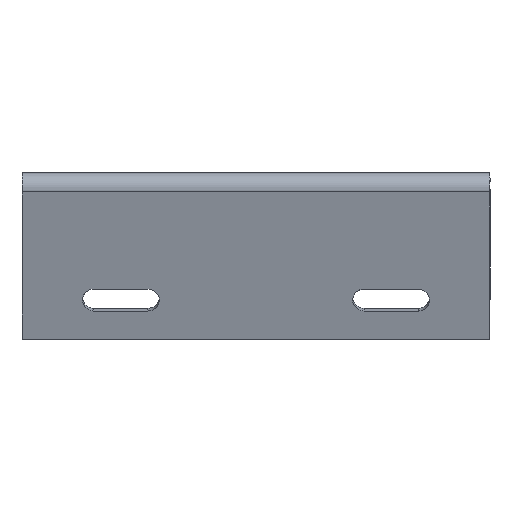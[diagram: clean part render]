
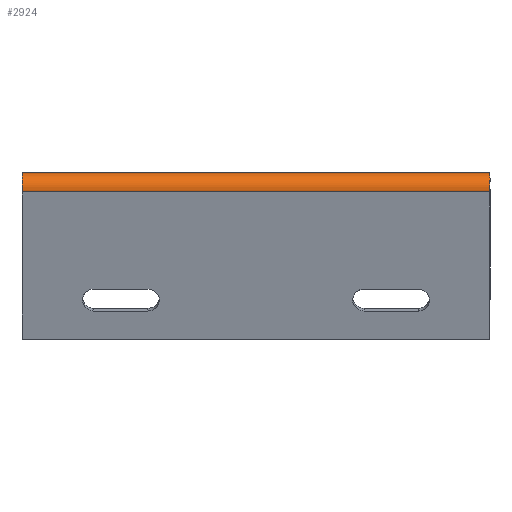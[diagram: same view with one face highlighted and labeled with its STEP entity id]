
A CAD part, left-side view. The second image highlights one B-rep face of the part: STEP entity #2924.
In plain terms, the highlighted cylindrical face has radius 7.163 mm (diameter 14.326 mm), a partial arc.
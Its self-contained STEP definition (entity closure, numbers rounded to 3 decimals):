
#7 = DIRECTION ( 'NONE',  ( -0.966, 0., -0.259 ) ) ;
#178 = CARTESIAN_POINT ( 'NONE',  ( -56.361, -109.982, 1.526 ) ) ;
#427 = CARTESIAN_POINT ( 'NONE',  ( -55.396, 109.982, 2.82 ) ) ;
#463 = CARTESIAN_POINT ( 'NONE',  ( -57.274, -36.661, -4.241 ) ) ;
#873 = EDGE_CURVE ( 'NONE', #5734, #4604, #5027, .T. ) ;
#1203 = CARTESIAN_POINT ( 'NONE',  ( -50.355, 109.982, 4.775 ) ) ;
#1736 = CARTESIAN_POINT ( 'NONE',  ( -57.11, -109.982, 0.057 ) ) ;
#1927 = CARTESIAN_POINT ( 'NONE',  ( -54.534, 109.982, 3.534 ) ) ;
#1978 = CARTESIAN_POINT ( 'NONE',  ( -53.055, 109.982, 4.27 ) ) ;
#2028 = CARTESIAN_POINT ( 'NONE',  ( -57.847, 109.982, -2.104 ) ) ;
#2773 = CARTESIAN_POINT ( 'NONE',  ( -50.355, 109.982, 4.775 ) ) ;
#2915 = B_SPLINE_CURVE_WITH_KNOTS ( 'NONE', 3,
 ( #3734, #463, #6883, #10006 ),
 .UNSPECIFIED., .F., .F.,
 ( 4, 4 ),
 ( 0., 1. ),
 .UNSPECIFIED. ) ;
#2924 = ADVANCED_FACE ( 'NONE', ( #6156 ), #7823, .T. ) ;
#3127 = AXIS2_PLACEMENT_3D ( 'NONE', #7720, #6999, #7 ) ;
#3461 = ORIENTED_EDGE ( 'NONE', *, *, #9538, .F. ) ;
#3497 = CARTESIAN_POINT ( 'NONE',  ( -52.53, 109.982, 4.459 ) ) ;
#3734 = CARTESIAN_POINT ( 'NONE',  ( -57.274, -109.982, -4.241 ) ) ;
#4004 = CARTESIAN_POINT ( 'NONE',  ( -57.274, -109.982, -4.241 ) ) ;
#4070 = CARTESIAN_POINT ( 'NONE',  ( -56.643, -109.982, 1.054 ) ) ;
#4213 = ORIENTED_EDGE ( 'NONE', *, *, #6227, .F. ) ;
#4604 = VERTEX_POINT ( 'NONE', #7995 ) ;
#4743 = CARTESIAN_POINT ( 'NONE',  ( -55.59, -109.982, 2.66 ) ) ;
#4836 = CARTESIAN_POINT ( 'NONE',  ( -51.458, -109.982, 4.711 ) ) ;
#5027 = B_SPLINE_CURVE_WITH_KNOTS ( 'NONE', 3,
 ( #9157, #6747, #5901, #2773 ),
 .UNSPECIFIED., .F., .F.,
 ( 4, 4 ),
 ( 0., 1. ),
 .UNSPECIFIED. ) ;
#5378 = ORIENTED_EDGE ( 'NONE', *, *, #873, .T. ) ;
#5511 = CARTESIAN_POINT ( 'NONE',  ( -57.274, -109.982, -4.241 ) ) ;
#5586 = B_SPLINE_CURVE_WITH_KNOTS ( 'NONE', 3,
 ( #9770, #2028, #8292, #427, #1927, #1978, #3497, #8241, #9876, #1203 ),
 .UNSPECIFIED., .F., .F.,
 ( 4, 2, 2, 2, 4 ),
 ( 0., 0.5, 0.75, 0.875, 1. ),
 .UNSPECIFIED. ) ;
#5607 = CARTESIAN_POINT ( 'NONE',  ( -56.771, -109.982, 0.808 ) ) ;
#5734 = VERTEX_POINT ( 'NONE', #8951 ) ;
#5901 = CARTESIAN_POINT ( 'NONE',  ( -50.355, 36.661, 4.775 ) ) ;
#6156 = FACE_OUTER_BOUND ( 'NONE', #9768, .T. ) ;
#6227 = EDGE_CURVE ( 'NONE', #7140, #10100, #2915, .T. ) ;
#6345 = CARTESIAN_POINT ( 'NONE',  ( -53.055, -109.982, 4.27 ) ) ;
#6385 = CARTESIAN_POINT ( 'NONE',  ( -50.908, -109.982, 4.775 ) ) ;
#6490 = CARTESIAN_POINT ( 'NONE',  ( -50.355, -109.982, 4.775 ) ) ;
#6747 = CARTESIAN_POINT ( 'NONE',  ( -50.355, -36.661, 4.775 ) ) ;
#6883 = CARTESIAN_POINT ( 'NONE',  ( -57.274, 36.661, -4.241 ) ) ;
#6999 = DIRECTION ( 'NONE',  ( 0., 1., 0. ) ) ;
#7125 = B_SPLINE_CURVE_WITH_KNOTS ( 'NONE', 3,
 ( #6490, #6385, #4836, #8767, #6345, #8868, #4743, #178, #4070, #5607, #1736, #7221, #8043, #5511 ),
 .UNSPECIFIED., .F., .F.,
 ( 4, 2, 2, 1, 2, 2, 1, 4 ),
 ( 0., 0.125, 0.25, 0.5, 0.562, 0.625, 0.75, 1. ),
 .UNSPECIFIED. ) ;
#7137 = CARTESIAN_POINT ( 'NONE',  ( -57.274, 109.982, -4.241 ) ) ;
#7140 = VERTEX_POINT ( 'NONE', #4004 ) ;
#7221 = CARTESIAN_POINT ( 'NONE',  ( -57.609, -109.982, -1.51 ) ) ;
#7624 = EDGE_CURVE ( 'NONE', #10100, #4604, #5586, .T. ) ;
#7720 = CARTESIAN_POINT ( 'NONE',  ( -50.355, -109.982, -2.388 ) ) ;
#7823 = CYLINDRICAL_SURFACE ( 'NONE', #3127, 7.163 ) ;
#7995 = CARTESIAN_POINT ( 'NONE',  ( -50.355, 109.982, 4.775 ) ) ;
#8043 = CARTESIAN_POINT ( 'NONE',  ( -57.56, -109.982, -3.174 ) ) ;
#8241 = CARTESIAN_POINT ( 'NONE',  ( -51.458, 109.982, 4.711 ) ) ;
#8292 = CARTESIAN_POINT ( 'NONE',  ( -57.399, 109.982, 0.177 ) ) ;
#8767 = CARTESIAN_POINT ( 'NONE',  ( -52.531, -109.982, 4.459 ) ) ;
#8868 = CARTESIAN_POINT ( 'NONE',  ( -54.522, -109.982, 3.54 ) ) ;
#8951 = CARTESIAN_POINT ( 'NONE',  ( -50.355, -109.982, 4.775 ) ) ;
#9157 = CARTESIAN_POINT ( 'NONE',  ( -50.355, -109.982, 4.775 ) ) ;
#9538 = EDGE_CURVE ( 'NONE', #5734, #7140, #7125, .T. ) ;
#9685 = ORIENTED_EDGE ( 'NONE', *, *, #7624, .F. ) ;
#9768 = EDGE_LOOP ( 'NONE', ( #3461, #5378, #9685, #4213 ) ) ;
#9770 = CARTESIAN_POINT ( 'NONE',  ( -57.274, 109.982, -4.241 ) ) ;
#9876 = CARTESIAN_POINT ( 'NONE',  ( -50.908, 109.982, 4.775 ) ) ;
#10006 = CARTESIAN_POINT ( 'NONE',  ( -57.274, 109.982, -4.241 ) ) ;
#10100 = VERTEX_POINT ( 'NONE', #7137 ) ;
